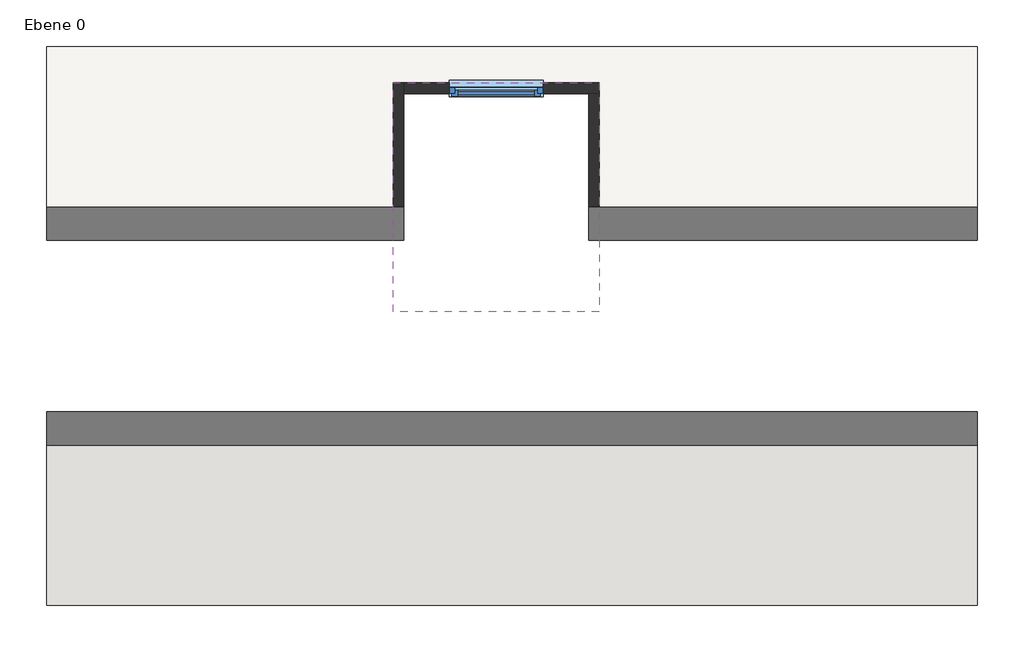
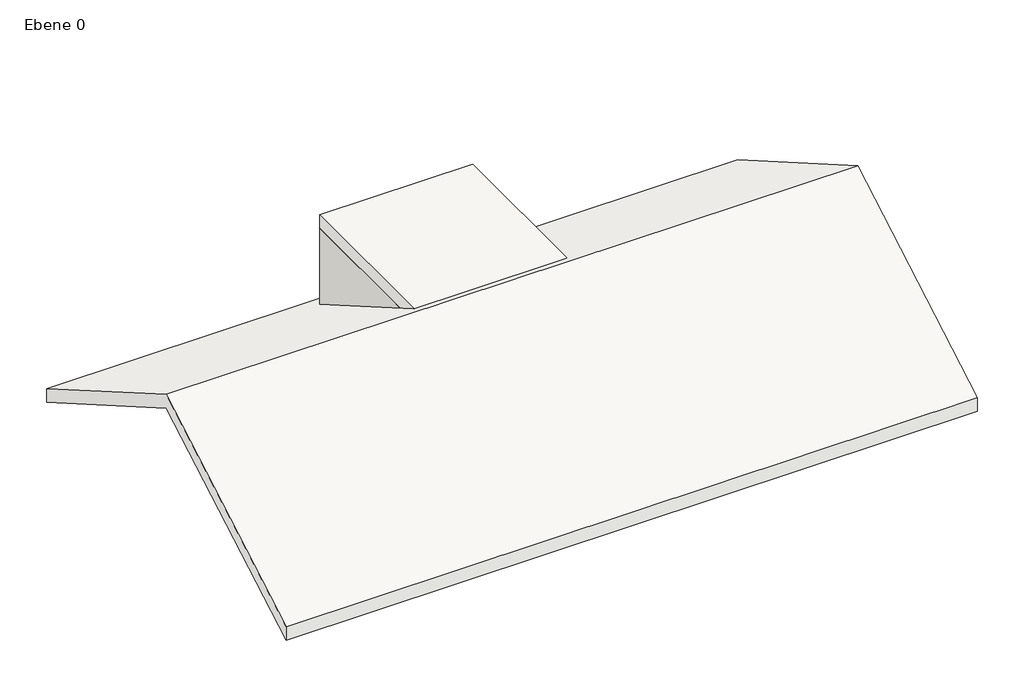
# One storey: 3 walls, 1 roof, 1 slab, 1 window.
"""IFC4 building model written with IfcOpenShell, lengths in millimetres."""

import ifcopenshell
import ifcopenshell.guid

model = None  # the IFC model being written
_history = None  # IfcOwnerHistory: only IFC2X3 demands one
_inside = {}  # id of a spatial element -> (the spatial element, [elements in it])
_under = {}  # id of a project, library or spatial element -> (it, [spatial elements below it])
_declared = {}  # id of a project -> (the project, [libraries it declares])
_typed = {}  # id of a type object -> (the type object, [elements of that type])
_made_of = {}  # id of a material, layer set ... -> (it, [elements and type objects made of it])


def new_model(schema):
    """Start an empty IFC model of exactly this schema.

    Asked for "IFC4X3", IfcOpenShell would pick the latest addendum, in which some entities
    have other attributes; the version numbers below select the first issue.
    IFC2X3 requires an IfcOwnerHistory on every rooted entity: one is made here for all.
    """
    global model, _history
    if schema == "IFC4X3":
        model = ifcopenshell.file(schema_version=(4, 3, 0, 0))
    else:
        model = ifcopenshell.file(schema=schema)
    _inside.clear()
    _under.clear()
    _declared.clear()
    _typed.clear()
    _made_of.clear()
    _history = None
    if model.schema == "IFC2X3":
        org = make("IfcOrganization", Name="unknown")
        user = make(
            "IfcPersonAndOrganization",
            ThePerson=make("IfcPerson", FamilyName="unknown"),
            TheOrganization=org,
        )
        app = make(
            "IfcApplication",
            ApplicationDeveloper=org,
            Version="unknown",
            ApplicationFullName="unknown",
            ApplicationIdentifier="unknown",
        )
        _history = make(
            "IfcOwnerHistory",
            OwningUser=user,
            OwningApplication=app,
            ChangeAction="ADDED",
            CreationDate=0,
        )
    return model


def make(cls, **values):
    """One entity of the class cls with the attributes given. An attribute that is None is left unset."""
    return model.create_entity(
        cls, **{name: value for name, value in values.items() if value is not None}
    )


def rooted(cls, **values):
    """An entity with a GlobalId (a new one), such as an element, a storey or a relation."""
    return make(cls, GlobalId=ifcopenshell.guid.new(), OwnerHistory=_history, **values)


def si_unit(unit_type, name, prefix=None):
    """IfcSIUnit, for example si_unit("LENGTHUNIT", "METRE", prefix="MILLI")."""
    return make("IfcSIUnit", UnitType=unit_type, Prefix=prefix, Name=name)


def assignment(units):
    """IfcUnitAssignment: the units of a project."""
    return None if units is None else make("IfcUnitAssignment", Units=units)


def point(xyz):
    """IfcCartesianPoint."""
    return None if xyz is None else make("IfcCartesianPoint", Coordinates=xyz)


def direction(xyz):
    """IfcDirection."""
    return None if xyz is None else make("IfcDirection", DirectionRatios=xyz)


def frame(location, z_axis=None, x_axis=None):
    """IfcAxis2Placement3D, a coordinate frame: its origin and axes. An axis left out is left unset."""
    return make(
        "IfcAxis2Placement3D",
        Location=point(location),
        Axis=direction(z_axis),
        RefDirection=direction(x_axis),
    )


def origin():
    """The frame at (0, 0, 0) with its axes left unset."""
    return frame((0.0, 0.0, 0.0))


def place(relative_to, where):
    """IfcLocalPlacement: puts the frame where relative to a parent placement (None: the world)."""
    return make(
        "IfcLocalPlacement", PlacementRelTo=relative_to, RelativePlacement=where
    )


def context(
    kind, dimensions, precision=None, world=None, true_north=None, identifier=None
):
    """IfcGeometricRepresentationContext, for example the 3D "Model" context."""
    return make(
        "IfcGeometricRepresentationContext",
        ContextIdentifier=identifier,
        ContextType=kind,
        CoordinateSpaceDimension=dimensions,
        Precision=precision,
        WorldCoordinateSystem=world,
        TrueNorth=true_north,
    )


def project(units=None, contexts=None):
    """IfcProject with its units and contexts."""
    return rooted(
        "IfcProject",
        Name="project",
        RepresentationContexts=contexts,
        UnitsInContext=assignment(units),
    )


def spatial(cls, under=None, at=None, **own):
    """A site, building, storey or space (cls), placed at a placement, below another one or the project."""
    s = rooted(cls, ObjectPlacement=at, **own)
    if under is not None:
        _under.setdefault(under.id(), (under, []))[1].append(s)
    return s


def polyline(points):
    """IfcPolyline through the points."""
    return make("IfcPolyline", Points=[point(p) for p in points])


def outline(outer, holes=None, kind="AREA"):
    """IfcArbitraryClosedProfileDef: a profile drawn as a closed curve; with holes, ...WithVoids."""
    if holes is None:
        return make("IfcArbitraryClosedProfileDef", ProfileType=kind, OuterCurve=outer)
    return make(
        "IfcArbitraryProfileDefWithVoids",
        ProfileType=kind,
        OuterCurve=outer,
        InnerCurves=holes,
    )


def extrude(swept, where, along, depth):
    """IfcExtrudedAreaSolid: the profile swept, set in the frame where, extruded along a direction by depth."""
    return make(
        "IfcExtrudedAreaSolid",
        SweptArea=swept,
        Position=where,
        ExtrudedDirection=direction(along),
        Depth=depth,
    )


def faces_of(points, faces, orient=None, outer=None):
    """IfcFace entities. A face is a list of loops; a loop is a list of indices into points, from 0.

    orient and outer hold one flag for each loop. By default every Orientation is true, the
    first loop of a face is its IfcFaceOuterBound and the others are IfcFaceBound.
    """
    made = []
    for i, loops in enumerate(faces):
        bounds = []
        for j, loop in enumerate(loops):
            is_outer = j == 0 if outer is None else outer[i][j]
            bounds.append(
                make(
                    "IfcFaceOuterBound" if is_outer else "IfcFaceBound",
                    Bound=make("IfcPolyLoop", Polygon=[points[k] for k in loop]),
                    Orientation=True if orient is None else orient[i][j],
                )
            )
        made.append(make("IfcFace", Bounds=bounds))
    return made


def faceted_brep(points, faces, orient=None, outer=None, voids=None):
    """IfcFacetedBrep: a solid bounded by flat faces; with voids (closed shells), ...WithVoids."""
    shared = [point(p) for p in points]
    hull = make("IfcClosedShell", CfsFaces=faces_of(shared, faces, orient, outer))
    if voids is None:
        return make("IfcFacetedBrep", Outer=hull)
    return make(
        "IfcFacetedBrepWithVoids",
        Outer=hull,
        Voids=[
            make(cls, CfsFaces=faces_of(shared, fs, o, b)) for cls, fs, o, b in voids
        ],
    )


def shape(context_of_items, identifier, shape_type, items):
    """IfcShapeRepresentation: the items that make up one representation, for example the "Body"."""
    return make(
        "IfcShapeRepresentation",
        ContextOfItems=context_of_items,
        RepresentationIdentifier=identifier,
        RepresentationType=shape_type,
        Items=items,
    )


def source(mapping_origin, context_of_items, identifier, shape_type, items):
    """IfcRepresentationMap: a shape defined once, which mapped items show again and again."""
    return make(
        "IfcRepresentationMap",
        MappingOrigin=mapping_origin,
        MappedRepresentation=shape(context_of_items, identifier, shape_type, items),
    )


def transform(
    local_origin,
    x_axis=None,
    y_axis=None,
    z_axis=None,
    scale=None,
    scale2=None,
    scale3=None,
    uniform=True,
):
    """IfcCartesianTransformationOperator3D, or its non-uniform kind. x_axis, y_axis, z_axis: its Axis1, 2, 3."""
    if uniform:
        return make(
            "IfcCartesianTransformationOperator3D",
            Axis1=direction(x_axis),
            Axis2=direction(y_axis),
            LocalOrigin=point(local_origin),
            Scale=scale,
            Axis3=direction(z_axis),
        )
    return make(
        "IfcCartesianTransformationOperator3DnonUniform",
        Axis1=direction(x_axis),
        Axis2=direction(y_axis),
        LocalOrigin=point(local_origin),
        Scale=scale,
        Axis3=direction(z_axis),
        Scale2=scale2,
        Scale3=scale3,
    )


def mapped(mapping_source, mapping_target):
    """IfcMappedItem: shows the shape of a source again, moved by a transform."""
    return make(
        "IfcMappedItem", MappingSource=mapping_source, MappingTarget=mapping_target
    )


def made_of(thing, what):
    """Note that an element or type object is made of a material, layer set ...; save() writes the relation."""
    if what is not None:
        _made_of.setdefault(what.id(), (what, []))[1].append(thing)
    return thing


def element(
    cls,
    number,
    at=None,
    inside=None,
    cuts=None,
    type_object=None,
    material=None,
    context=None,
    identifier="Body",
    shape_type=None,
    held_by="IfcProductDefinitionShape",
    body=None,
    shapes=None,
    **own,
):
    """One element of the class cls, such as IfcWall. Its Tag is "e" and its number.

    at: its placement. inside: the storey or other place that contains it. cuts: it is an
    opening in that element (IfcRelVoidsElement). A single representation is given by context,
    identifier, shape_type and body (its items); several are given by shapes. held_by: the class
    of the entity that holds the representations. save() writes the other relations.
    """
    e = rooted(cls, Tag="e%d" % number, ObjectPlacement=at, **own)
    if body is not None:
        shapes = [shape(context, identifier, shape_type, body)]
    if shapes is not None:
        e.Representation = make(held_by, Representations=shapes)
    if inside is not None:
        _inside.setdefault(inside.id(), (inside, []))[1].append(e)
    if cuts is not None:
        rooted(
            "IfcRelVoidsElement", RelatingBuildingElement=cuts, RelatedOpeningElement=e
        )
    if type_object is not None:
        _typed.setdefault(type_object.id(), (type_object, []))[1].append(e)
    return made_of(e, material)


def aggregate(whole, parts):
    """IfcRelAggregates: a whole, such as a stair, and the parts it consists of."""
    return rooted("IfcRelAggregates", RelatingObject=whole, RelatedObjects=parts)


def save(model, path):
    """Write the relations noted so far, then the file.

    IfcRelAggregates (storeys below a building ...), IfcRelContainedInSpatialStructure (elements
    in a storey), IfcRelDefinesByType, IfcRelAssociatesMaterial and IfcRelDeclares: one each for
    every whole, place, type object, material and project.
    """
    for whole, parts in _under.values():
        aggregate(whole, parts)
    for where, things in _inside.values():
        rooted(
            "IfcRelContainedInSpatialStructure",
            RelatedElements=things,
            RelatingStructure=where,
        )
    for kind, things in _typed.values():
        rooted("IfcRelDefinesByType", RelatedObjects=things, RelatingType=kind)
    for what, things in _made_of.values():
        rooted("IfcRelAssociatesMaterial", RelatedObjects=things, RelatingMaterial=what)
    for by, libraries in _declared.values():
        rooted("IfcRelDeclares", RelatingContext=by, RelatedDefinitions=libraries)
    model.write(path)


def fenster_1_flg_1_01_x_1_01_41c35c17(model_context):
    return source(origin(), model_context, "Body", "SolidModel", [
        extrude(outline(polyline([(2010.0, 505.0), (2010.0, -505.0), (1000.0, -505.0), (1000.0, 505.0), (2010.0, 505.0)]), holes=[polyline([(1930.0, 445.0), (1080.0, 445.0), (1080.0, -445.0), (1930.0, -445.0), (1930.0, 445.0)])]), frame((0.0, -52.5, 0.0), z_axis=(0.0, 1.0, 0.0), x_axis=(0.0, 0.0, 1.0)), (0.0, 0.0, 1.0), 60.0),
        faceted_brep([(475.0, -52.5, 1960.0), (475.0, -82.5, 1960.0), (475.0, -82.5, 1050.0), (475.0, -52.5, 1050.0), (445.0, -22.5, 1930.0), (445.0, -52.5, 1930.0), (445.0, -52.5, 1080.0), (445.0, -22.5, 1080.0), (415.0, -82.5, 1900.0), (415.0, -22.5, 1900.0), (415.0, -22.5, 1110.0), (415.0, -82.5, 1110.0), (-475.0, -82.5, 1050.0), (-475.0, -52.5, 1050.0), (-445.0, -52.5, 1080.0), (-445.0, -22.5, 1080.0), (-415.0, -22.5, 1110.0), (-415.0, -82.5, 1110.0), (-475.0, -82.5, 1960.0), (-475.0, -52.5, 1960.0), (-445.0, -52.5, 1930.0), (-445.0, -22.5, 1930.0), (-415.0, -22.5, 1900.0), (-415.0, -82.5, 1900.0)], [[[0, 1, 2, 3]], [[4, 5, 6, 7]], [[8, 9, 10, 11]], [[3, 2, 12, 13]], [[7, 6, 14, 15]], [[11, 10, 16, 17]], [[13, 12, 18, 19]], [[15, 14, 20, 21]], [[17, 16, 22, 23]], [[19, 18, 1, 0]], [[3, 13, 19, 0], [5, 20, 14, 6]], [[21, 20, 5, 4]], [[7, 15, 21, 4], [9, 22, 16, 10]], [[23, 22, 9, 8]], [[1, 18, 12, 2], [11, 17, 23, 8]]]),
        extrude(outline(polyline([(-505.0, -87.5), (-505.0, -52.5), (505.0, -52.5), (505.0, -87.5), (-505.0, -87.5)])), frame((0.0, 0.0, 1005.0), z_axis=(0.0, 0.0, 1.0), x_axis=(1.0, 0.0, 0.0)), (0.0, 0.0, 1.0), 15.0),
        extrude(outline(polyline([(17.5221543, 1020.0), (87.5, 1000.0), (87.5, 990.0), (85.5, 990.0), (85.5, 998.3604634), (17.3240723, 1018.0), (7.5, 1018.0), (7.5, 1020.0), (17.5221543, 1020.0)])), frame((-505.0, 0.0, 0.0), z_axis=(1.0, 0.0, 0.0), x_axis=(0.0, 1.0, 0.0)), (0.0, 0.0, 1.0), 1010.0),
        extrude(outline(polyline([(415.0, -67.5), (-415.0, -67.5), (-415.0, -37.5), (415.0, -37.5), (415.0, -67.5)])), frame((0.0, 0.0, 1110.0), z_axis=(0.0, 0.0, 1.0), x_axis=(1.0, 0.0, 0.0)), (0.0, 0.0, 1.0), 790.0),
    ])


model = new_model("IFC4")

# Units and contexts
model_context = context("Model", 3, world=origin())
ifc_project = project(units=[si_unit("LENGTHUNIT", "METRE", prefix="MILLI")], contexts=[model_context])

# Site, building, storey
site = spatial("IfcSite", under=ifc_project)
building = spatial("IfcBuilding", under=site)
storey = spatial("IfcBuildingStorey", under=building, Name="Ebene 0", Elevation=0.0)

# Roof
placement = place(None, origin())
element("IfcRoof", 1, ObjectType="Titanzink - Eindeckung", at=placement, inside=storey, context=model_context, shape_type="Brep", body=[
    faceted_brep([(6436.7857153, 14320.8773559, 1732.0508076), (6436.7857153, 17320.8773559, 0.0), (16436.7857153, 17320.8773559, 0.0), (16436.7857153, 14320.8773559, 1732.0508076), (12259.3086183, 14909.5960637, 1392.1539031), (12259.3086183, 16814.2875041, 292.4797873), (10274.3086183, 16814.2875041, 292.4797873), (10274.3086183, 14909.5960637, 1392.1539031), (16436.7857153, 11320.8773559, 0.0), (6436.7857153, 11320.8773559, 0.0), (6436.7857153, 17320.8773559, 207.8460969), (6436.7857153, 14320.8773559, 1939.8969045), (16436.7857153, 14320.8773559, 1939.8969045), (16436.7857153, 17320.8773559, 207.8460969), (12259.3086183, 16814.2875041, 500.3258842), (12259.3086183, 14909.5960637, 1600.0), (10274.3086183, 14909.5960637, 1600.0), (10274.3086183, 16814.2875041, 500.3258842), (6436.7857153, 11320.8773559, 207.8460969), (16436.7857153, 11320.8773559, 207.8460969)], [[[0, 1, 2, 3], [4, 5, 6, 7]], [[0, 3, 8, 9]], [[10, 11, 12, 13], [14, 15, 16, 17]], [[12, 11, 18, 19]], [[19, 18, 9, 8]], [[10, 13, 2, 1]], [[1, 0, 9, 18, 11, 10]], [[3, 2, 13, 12, 19, 8]], [[14, 5, 4, 15]], [[15, 4, 7, 16]], [[16, 7, 6, 17]], [[5, 14, 17, 6]]]),
])

# Slab
element("IfcSlab", 2, ObjectType="STB 20.0", at=placement, inside=storey, context=model_context, shape_type="SweptSolid", body=[
    extrude(outline(polyline([(12374.3086183, 16929.2875041), (12374.3086183, 14471.7875041), (10159.3086183, 14471.7875041), (10159.3086183, 16929.2875041), (12374.3086183, 16929.2875041)])), frame((0.0, 0.0, 1600.0), z_axis=(0.0, 0.0, 1.0), x_axis=(1.0, 0.0, 0.0)), (0.0, 0.0, 1.0), 200.0),
])

# Walls
element("IfcWall", 3, ObjectType="MW 11.5", at=placement, inside=storey, context=model_context, shape_type="Brep", body=[
    faceted_brep([(10274.3086183, 16929.2875041, 433.9306032), (10274.3086183, 16929.2875041, 1600.0), (10274.3086183, 16814.2875041, 1600.0), (10274.3086183, 14909.5960637, 1600.0), (10274.3086183, 16814.2875041, 500.3258842), (10159.3086183, 14909.5960637, 1600.0), (10159.3086183, 16929.2875041, 1600.0), (10159.3086183, 16929.2875041, 433.9306032)], [[[0, 1, 2, 3, 4]], [[5, 6, 7]], [[6, 1, 0, 7]], [[1, 6, 5, 3, 2]], [[0, 4, 3, 5, 7]]]),
])
element("IfcWall", 4, ObjectType="MW 11.5", at=placement, inside=storey, context=model_context, shape_type="Brep", body=[
    faceted_brep([(12374.3086183, 16814.2875041, 500.3258842), (12374.3086183, 16814.2875041, 1600.0), (12259.3086183, 16814.2875041, 1600.0), (10274.3086183, 16814.2875041, 1600.0), (10274.3086183, 16814.2875041, 500.3258842), (10761.8086183, 16814.2875041, 500.3258842), (10761.8086183, 16814.2875041, 1510.0), (11771.8086183, 16814.2875041, 1510.0), (11771.8086183, 16814.2875041, 500.3258842), (12259.3086183, 16814.2875041, 500.3258842), (12374.3086183, 16929.2875041, 433.9306032), (10274.3086183, 16929.2875041, 433.9306032), (10274.3086183, 16929.2875041, 1600.0), (12374.3086183, 16929.2875041, 1600.0), (10761.8086183, 16929.2875041, 1510.0), (10761.8086183, 16929.2875041, 500.0), (11771.8086183, 16929.2875041, 500.0), (11771.8086183, 16929.2875041, 1510.0), (11771.8086183, 16814.8519521, 500.0), (10761.8086183, 16814.8519521, 500.0)], [[[0, 1, 2, 3, 4, 5, 6, 7, 8, 9]], [[10, 11, 12, 13], [14, 15, 16, 17]], [[1, 0, 10, 13]], [[4, 3, 12, 11]], [[3, 2, 1, 13, 12]], [[11, 10, 0, 9, 8, 18, 19, 5, 4]], [[19, 15, 14, 6, 5]], [[17, 7, 6, 14]], [[7, 17, 16, 18, 8]], [[15, 19, 18, 16]]]),
])
element("IfcWall", 5, ObjectType="MW 11.5", at=placement, inside=storey, context=model_context, shape_type="SweptSolid", body=[
    extrude(outline(polyline([(14909.5960637, 1600.0), (16814.2875041, 1600.0), (16814.2875041, 500.3258842), (14909.5960637, 1600.0)])), frame((12259.3086183, 0.0, 0.0), z_axis=(1.0, 0.0, 0.0), x_axis=(0.0, 1.0, 0.0)), (0.0, 0.0, 1.0), 115.0),
])

# Window
fenster_1_flg_1_01_x_1_01_shape = fenster_1_flg_1_01_x_1_01_41c35c17(model_context)
element("IfcWindow", 6, ObjectType="Fenster 1-flg : 1.01 x 1.01", at=placement, inside=storey, context=model_context, shape_type="MappedRepresentation", body=[
    mapped(fenster_1_flg_1_01_x_1_01_shape, transform((11266.8086183, 16871.7875041, -500.0), x_axis=(1.0, 0.0, 0.0), y_axis=(0.0, 1.0, 0.0), z_axis=(0.0, 0.0, 1.0))),
])

save(model, "model.ifc")
